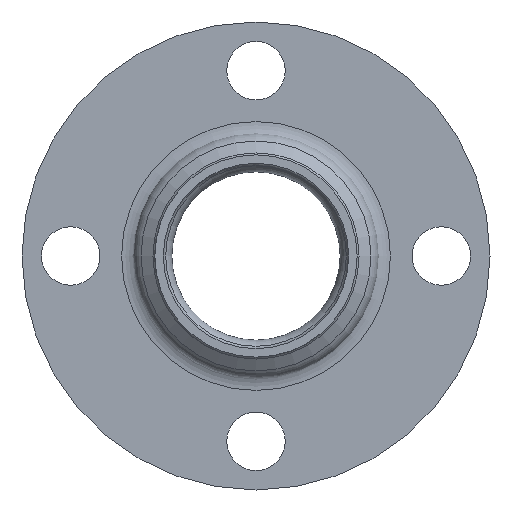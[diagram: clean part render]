
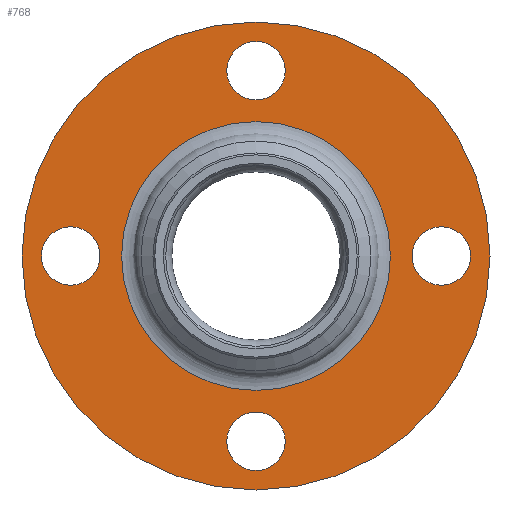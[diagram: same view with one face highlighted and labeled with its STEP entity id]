
A CAD part, left-side view. The second image highlights one B-rep face of the part: STEP entity #768.
In plain terms, the highlighted planar face has unit normal (-1, 0, 0).
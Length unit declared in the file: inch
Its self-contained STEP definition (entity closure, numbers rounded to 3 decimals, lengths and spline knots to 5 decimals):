
#49=FACE_BOUND('',#118,.T.);
#50=FACE_BOUND('',#119,.T.);
#51=FACE_BOUND('',#120,.T.);
#52=FACE_BOUND('',#121,.T.);
#53=FACE_BOUND('',#122,.T.);
#62=PLANE('',#839);
#84=FACE_OUTER_BOUND('',#117,.T.);
#117=EDGE_LOOP('',(#515,#516));
#118=EDGE_LOOP('',(#517));
#119=EDGE_LOOP('',(#518));
#120=EDGE_LOOP('',(#519));
#121=EDGE_LOOP('',(#520));
#122=EDGE_LOOP('',(#521,#522));
#192=CIRCLE('',#819,0.375);
#195=CIRCLE('',#823,0.375);
#198=CIRCLE('',#827,0.375);
#201=CIRCLE('',#831,0.375);
#204=CIRCLE('',#835,1.72336);
#205=CIRCLE('',#836,1.72336);
#208=CIRCLE('',#840,3.);
#209=CIRCLE('',#841,3.);
#290=VERTEX_POINT('',#1272);
#293=VERTEX_POINT('',#1280);
#296=VERTEX_POINT('',#1288);
#299=VERTEX_POINT('',#1296);
#302=VERTEX_POINT('',#1303);
#303=VERTEX_POINT('',#1305);
#305=VERTEX_POINT('',#1312);
#306=VERTEX_POINT('',#1313);
#377=EDGE_CURVE('',#290,#290,#192,.T.);
#381=EDGE_CURVE('',#293,#293,#195,.T.);
#385=EDGE_CURVE('',#296,#296,#198,.T.);
#389=EDGE_CURVE('',#299,#299,#201,.T.);
#392=EDGE_CURVE('',#302,#303,#204,.T.);
#393=EDGE_CURVE('',#303,#302,#205,.T.);
#396=EDGE_CURVE('',#305,#306,#208,.T.);
#397=EDGE_CURVE('',#306,#305,#209,.T.);
#515=ORIENTED_EDGE('',*,*,#396,.F.);
#516=ORIENTED_EDGE('',*,*,#397,.F.);
#517=ORIENTED_EDGE('',*,*,#377,.T.);
#518=ORIENTED_EDGE('',*,*,#381,.T.);
#519=ORIENTED_EDGE('',*,*,#385,.T.);
#520=ORIENTED_EDGE('',*,*,#389,.T.);
#521=ORIENTED_EDGE('',*,*,#393,.F.);
#522=ORIENTED_EDGE('',*,*,#392,.F.);
#768=ADVANCED_FACE('',(#84,#49,#50,#51,#52,#53),#62,.T.);
#819=AXIS2_PLACEMENT_3D('',#1274,#969,#970);
#823=AXIS2_PLACEMENT_3D('',#1282,#978,#979);
#827=AXIS2_PLACEMENT_3D('',#1290,#987,#988);
#831=AXIS2_PLACEMENT_3D('',#1298,#996,#997);
#835=AXIS2_PLACEMENT_3D('',#1306,#1004,#1005);
#836=AXIS2_PLACEMENT_3D('',#1307,#1006,#1007);
#839=AXIS2_PLACEMENT_3D('',#1311,#1012,#1013);
#840=AXIS2_PLACEMENT_3D('',#1314,#1014,#1015);
#841=AXIS2_PLACEMENT_3D('',#1315,#1016,#1017);
#969=DIRECTION('center_axis',(1.,0.,0.));
#970=DIRECTION('ref_axis',(0.,-1.,0.));
#978=DIRECTION('center_axis',(1.,0.,0.));
#979=DIRECTION('ref_axis',(0.,0.,1.));
#987=DIRECTION('center_axis',(1.,0.,0.));
#988=DIRECTION('ref_axis',(0.,1.,0.));
#996=DIRECTION('center_axis',(1.,0.,0.));
#997=DIRECTION('ref_axis',(0.,0.,-1.));
#1004=DIRECTION('center_axis',(-1.,0.,0.));
#1005=DIRECTION('ref_axis',(0.,-1.,0.));
#1006=DIRECTION('center_axis',(-1.,0.,0.));
#1007=DIRECTION('ref_axis',(0.,-1.,0.));
#1012=DIRECTION('center_axis',(-1.,0.,0.));
#1013=DIRECTION('ref_axis',(0.,0.,1.));
#1014=DIRECTION('center_axis',(1.,0.,0.));
#1015=DIRECTION('ref_axis',(0.,1.,0.));
#1016=DIRECTION('center_axis',(1.,0.,0.));
#1017=DIRECTION('ref_axis',(0.,1.,0.));
#1272=CARTESIAN_POINT('',(1.525,0.375,-2.375));
#1274=CARTESIAN_POINT('Origin',(1.525,0.,-2.375));
#1280=CARTESIAN_POINT('',(1.525,-2.375,-0.375));
#1282=CARTESIAN_POINT('Origin',(1.525,-2.375,0.));
#1288=CARTESIAN_POINT('',(1.525,-0.375,2.375));
#1290=CARTESIAN_POINT('Origin',(1.525,0.,2.375));
#1296=CARTESIAN_POINT('',(1.525,2.375,0.375));
#1298=CARTESIAN_POINT('Origin',(1.525,2.375,0.));
#1303=CARTESIAN_POINT('',(1.525,0.,1.72336));
#1305=CARTESIAN_POINT('',(1.525,1.72336,0.));
#1306=CARTESIAN_POINT('Origin',(1.525,0.,0.));
#1307=CARTESIAN_POINT('Origin',(1.525,0.,0.));
#1311=CARTESIAN_POINT('Origin',(1.525,2.265,0.));
#1312=CARTESIAN_POINT('',(1.525,3.,0.));
#1313=CARTESIAN_POINT('',(1.525,-3.,0.));
#1314=CARTESIAN_POINT('Origin',(1.525,0.,0.));
#1315=CARTESIAN_POINT('Origin',(1.525,0.,0.));
